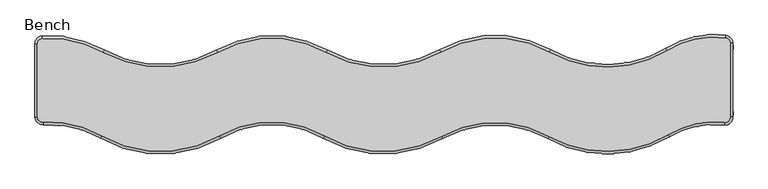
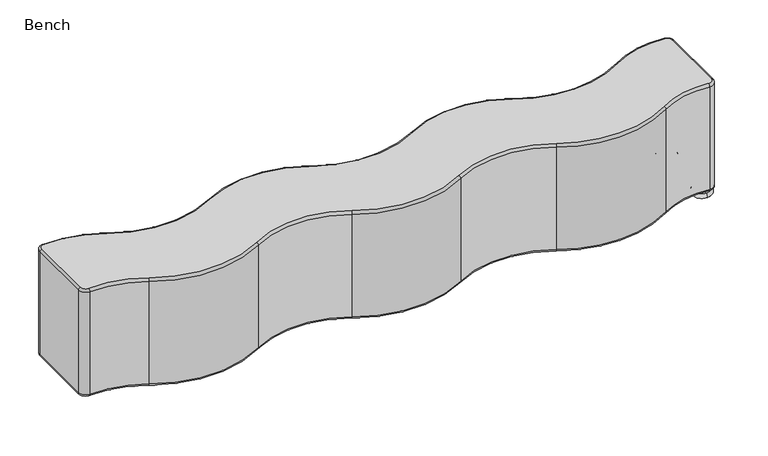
"""IFC4 building model written with IfcOpenShell, lengths in millimetres: furniture geometry, Steelcase Coalesse - Ripple - Seating - Upholstered Flat Bench : Bench."""

from ifc_helpers import new_model, si_unit, point, frame, origin, place, context, project, spatial, polyline, circle_curve, ellipse_curve, trimmed, source, transform, mapped, element, save
from ifc_brep_helpers import plane_surface, cylinder_surface, revolved_surface, advanced_brep


def bench_4ffe46dd(model_context):
    return source(origin(), model_context, "Body", "AdvancedBrep", [
        advanced_brep(
        [(736.6952251, -609.2203933, 460.7521088), (337.8246235, -609.1809598, 460.7521088), (124.6662938, -560.18304, 460.7521088), (107.0639899, -578.833943, 460.7521088), (107.0639899, -834.9683341, 460.7521088), (126.775642, -853.6220822, 460.7521088), (331.3873618, -901.9219418, 460.7521088), (743.128145, -901.9630939, 460.7521088), (1111.2884846, -901.9630939, 460.7521088), (1520.1968845, -903.5243151, 460.7521088), (1895.8402947, -903.5243151, 460.7521088), (2312.1873147, -897.6153275, 460.7521088), (2509.2391463, -854.6506444, 460.7521088), (2529.9712851, -836.0813227, 460.7521088), (2529.9712851, -577.0570264, 460.7521088), (2513.5297066, -558.5097322, 460.7521088), (2310.427035, -602.1785447, 460.7521088), (1897.4133119, -608.0375633, 460.7521088), (1518.6266727, -608.0375633, 460.7521088), (1117.7242098, -609.2203933, 460.7521088), (338.1222981, -608.6484328, 26.3783045), (736.3976557, -608.6878074, 26.3783045), (1118.0217791, -608.6878074, 26.3783045), (1518.3259658, -607.5067425, 26.3783045), (1897.7140188, -607.5067425, 26.3783045), (2310.1113917, -601.6564675, 26.3783045), (2513.6028736, -557.9040575, 26.3783045), (2530.5813632, -577.0570264, 26.3783045), (2530.5813632, -836.0813227, 26.3783045), (2509.1722021, -855.2570385, 26.3783045), (2312.5006153, -898.138814, 26.3783045), (1895.5419765, -904.0564819, 26.3783045), (1520.4952028, -904.0564819, 26.3783045), (1110.9861115, -902.4929673, 26.3783045), (743.4305181, -902.4929673, 26.3783045), (331.0848828, -902.4517547, 26.3783045), (126.8092616, -854.2312332, 26.3783045), (106.4539118, -834.9683341, 26.3783045), (106.4539118, -578.833943, 26.3783045), (124.6310311, -559.5739818, 26.3783045), (342.2450959, -601.2729262, 34.8278937), (732.2763163, -601.3114858, 34.8278937), (342.2450959, -601.2729262, 451.6924415), (732.2763163, -601.3114858, 451.6924415), (124.1426426, -551.1385189, 34.8278937), (124.1426426, -551.1385189, 451.6924415), (98.0043225, -578.833943, 34.8278937), (98.0043225, -578.833943, 451.6924415), (98.0043225, -834.9683341, 34.8278937), (98.0043225, -834.9683341, 451.6924415), (127.2748927, -862.6679829, 34.8278937), (127.2748927, -862.6679829, 451.6924415), (326.8955446, -909.7896701, 34.8278937), (326.8955446, -909.7896701, 451.6924415), (747.6183895, -909.83172, 34.8278937), (747.6183895, -909.83172, 451.6924415), (1106.7982401, -909.83172, 34.8278937), (1106.7982401, -909.83172, 451.6924415), (1524.6269138, -911.426999, 34.8278937), (1524.6269138, -911.426999, 451.6924415), (1891.4102654, -911.426999, 34.8278937), (1891.4102654, -911.426999, 451.6924415), (2316.8398316, -905.3891078, 34.8278937), (2316.8398316, -905.3891078, 451.6924415), (2508.2450234, -863.6556037, 34.8278937), (2508.2450234, -863.6556037, 451.6924415), (2539.0309524, -836.0813227, 34.8278937), (2539.0309524, -836.0813227, 451.6924415), (2539.0309524, -577.0570264, 34.8278937), (2539.0309524, -577.0570264, 451.6924415), (2514.616237, -549.5154549, 34.8278937), (2514.616237, -549.5154549, 451.6924415), (2305.7397283, -594.4256918, 34.8278937), (2305.7397283, -594.4256918, 451.6924415), (1901.8788125, -600.1548685, 34.8278937), (1901.8788125, -600.1548685, 451.6924415), (1514.1611721, -600.1548685, 34.8278937), (1514.1611721, -600.1548685, 451.6924415), (1122.1431185, -601.3114858, 34.8278937), (1122.1431185, -601.3114858, 451.6924415)],
        [
            (0, 1, circle_curve(frame((537.2952048, -252.336739, 460.7521088), z_axis=(0.0, 0.0, -1.0), x_axis=(0.4877561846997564, -0.8729798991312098, 0.0)), 408.8108496)),
            (1, 2, circle_curve(frame((147.2427143, -950.1237314, 460.7521088), z_axis=(0.0, 0.0, 1.0), x_axis=(0.4879287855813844, 0.8728834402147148, 0.0)), 390.5936989)),
            (2, 3, circle_curve(frame((125.7461263, -578.833943, 460.7521088), z_axis=(0.0, 0.0, 1.0), x_axis=(-0.05780026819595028, 0.9983281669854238, 0.0)), 18.6821364)),
            (3, 4),
            (4, 5, circle_curve(frame((125.7461263, -834.9683341, 460.7521088), z_axis=(0.0, 0.0, 1.0), x_axis=(-1.0, 0.0, 0.0)), 18.6821364)),
            (5, 6, circle_curve(frame((147.2427143, -1224.4640154, 460.7521088), z_axis=(0.0, 0.0, -1.0), x_axis=(-0.055106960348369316, 0.998480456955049, 0.0)), 371.4063011)),
            (6, 7, circle_curve(frame((537.2938022, -541.2625843, 460.7521088), z_axis=(0.0, 0.0, 1.0), x_axis=(-0.4958037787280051, -0.8684345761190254, 0.0)), 415.2982474)),
            (7, 8, circle_curve(frame((927.2083148, -1224.5419704, 460.7521088), z_axis=(0.0, 0.0, -1.0), x_axis=(-0.49563017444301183, 0.868533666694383, 0.0)), 371.4063011)),
            (8, 9, circle_curve(frame((1317.1228274, -541.2625843, 460.7521088), z_axis=(0.0, 0.0, 1.0), x_axis=(-0.4956301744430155, -0.8685336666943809, 0.0)), 415.2982474)),
            (9, 10, circle_curve(frame((1708.0185896, -1238.5775313, 460.7521088), z_axis=(0.0, 0.0, -1.0), x_axis=(-0.48898366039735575, 0.8722929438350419, 0.0)), 384.1063011)),
            (10, 11, circle_curve(frame((2098.9143519, -541.2625843, 460.7521088), z_axis=(0.0, 0.0, 1.0), x_axis=(-0.48898366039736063, -0.872292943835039, 0.0)), 415.2982474)),
            (11, 12, circle_curve(frame((2474.5470553, -1168.8983732, 460.7521088), z_axis=(0.0, 0.0, -1.0), x_axis=(-0.5135416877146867, 0.858064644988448, 0.0)), 316.1568855)),
            (12, 13, circle_curve(frame((2511.2891487, -836.0813227, 460.7521088), z_axis=(0.0, 0.0, 1.0), x_axis=(-0.10973061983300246, -0.993961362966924, 0.0)), 18.6821364)),
            (13, 14),
            (14, 15, circle_curve(frame((2511.2891487, -577.0570264, 460.7521088), z_axis=(0.0, 0.0, 1.0), x_axis=(1.0, 0.0, 0.0)), 18.6821364)),
            (15, 16, circle_curve(frame((2475.3095033, -874.8958216, 460.7521088), z_axis=(0.0, 0.0, 1.0), x_axis=(0.11993049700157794, 0.9927822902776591, 0.0)), 318.6862744)),
            (16, 17, circle_curve(frame((2098.9157545, -252.336739, 460.7521088), z_axis=(0.0, 0.0, -1.0), x_axis=(0.5173817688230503, -0.8557546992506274, 0.0)), 408.8108496)),
            (17, 18, circle_curve(frame((1708.0199923, -942.3628399, 460.7521088), z_axis=(0.0, 0.0, 1.0), x_axis=(0.4928989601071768, 0.8700865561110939, 0.0)), 384.2436989)),
            (18, 19, circle_curve(frame((1317.12423, -252.336739, 460.7521088), z_axis=(0.0, 0.0, -1.0), x_axis=(0.4928989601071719, -0.8700865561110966, 0.0)), 408.8108496)),
            (19, 0, circle_curve(frame((927.2097174, -950.2008411, 460.7521088), z_axis=(0.0, 0.0, 1.0), x_axis=(0.4877561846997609, 0.8729798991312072, 0.0)), 390.5936989)),
            (20, 21, circle_curve(frame((537.2952048, -252.336739, 26.3783045), z_axis=(0.0, 0.0, 1.0), x_axis=(0.4877561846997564, -0.8729798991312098, 0.0)), 408.2007715)),
            (21, 22, circle_curve(frame((927.2097174, -950.2008411, 26.3783045), z_axis=(0.0, 0.0, -1.0), x_axis=(0.4877561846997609, 0.8729798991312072, 0.0)), 391.203777)),
            (22, 23, circle_curve(frame((1317.12423, -252.336739, 26.3783045), z_axis=(0.0, 0.0, 1.0), x_axis=(0.4928989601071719, -0.8700865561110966, 0.0)), 408.2007715)),
            (23, 24, circle_curve(frame((1708.0199923, -942.3628399, 26.3783045), z_axis=(0.0, 0.0, -1.0), x_axis=(0.4928989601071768, 0.8700865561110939, 0.0)), 384.853777)),
            (24, 25, circle_curve(frame((2098.9157545, -252.336739, 26.3783045), z_axis=(0.0, 0.0, 1.0), x_axis=(0.5173817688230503, -0.8557546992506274, 0.0)), 408.2007715)),
            (25, 26, circle_curve(frame((2475.3095033, -874.8958216, 26.3783045), z_axis=(0.0, 0.0, -1.0), x_axis=(0.11993049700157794, 0.9927822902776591, 0.0)), 319.2963525)),
            (26, 27, circle_curve(frame((2511.2891487, -577.0570264, 26.3783045), z_axis=(0.0, 0.0, -1.0), x_axis=(1.0, 0.0, 0.0)), 19.2922145)),
            (27, 28),
            (28, 29, circle_curve(frame((2511.2891487, -836.0813227, 26.3783045), z_axis=(0.0, 0.0, -1.0), x_axis=(-0.10973061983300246, -0.993961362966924, 0.0)), 19.2922145)),
            (29, 30, circle_curve(frame((2474.5470553, -1168.8983732, 26.3783045), z_axis=(0.0, 0.0, 1.0), x_axis=(-0.5135416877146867, 0.858064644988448, 0.0)), 315.5468074)),
            (30, 31, circle_curve(frame((2098.9143519, -541.2625843, 26.3783045), z_axis=(0.0, 0.0, -1.0), x_axis=(-0.48898366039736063, -0.872292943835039, 0.0)), 415.9083255)),
            (31, 32, circle_curve(frame((1708.0185896, -1238.5775313, 26.3783045), z_axis=(0.0, 0.0, 1.0), x_axis=(-0.48898366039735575, 0.8722929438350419, 0.0)), 383.496223)),
            (32, 33, circle_curve(frame((1317.1228274, -541.2625843, 26.3783045), z_axis=(0.0, 0.0, -1.0), x_axis=(-0.4956301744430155, -0.8685336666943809, 0.0)), 415.9083255)),
            (33, 34, circle_curve(frame((927.2083148, -1224.5419704, 26.3783045), z_axis=(0.0, 0.0, 1.0), x_axis=(-0.49563017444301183, 0.868533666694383, 0.0)), 370.796223)),
            (34, 35, circle_curve(frame((537.2938022, -541.2625843, 26.3783045), z_axis=(0.0, 0.0, -1.0), x_axis=(-0.4958037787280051, -0.8684345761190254, 0.0)), 415.9083255)),
            (35, 36, circle_curve(frame((147.2427143, -1224.4640154, 26.3783045), z_axis=(0.0, 0.0, 1.0), x_axis=(-0.055106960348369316, 0.998480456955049, 0.0)), 370.796223)),
            (36, 37, circle_curve(frame((125.7461263, -834.9683341, 26.3783045), z_axis=(0.0, 0.0, -1.0), x_axis=(-1.0, 0.0, 0.0)), 19.2922145)),
            (37, 38),
            (38, 39, circle_curve(frame((125.7461263, -578.833943, 26.3783045), z_axis=(0.0, 0.0, -1.0), x_axis=(-0.05780026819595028, 0.9983281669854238, 0.0)), 19.2922145)),
            (39, 20, circle_curve(frame((147.2427143, -950.1237314, 26.3783045), z_axis=(0.0, 0.0, -1.0), x_axis=(0.4879287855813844, 0.8728834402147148, 0.0)), 391.203777)),
            (40, 41, circle_curve(frame((537.2952048, -252.336739, 34.8278937), z_axis=(0.0, 0.0, 1.0), x_axis=(0.4877561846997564, -0.8729798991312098, 0.0)), 399.7511823)),
            (41, 21, circle_curve(frame((736.3976557, -608.6878074, 34.8278937), z_axis=(-0.8729798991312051, -0.4877561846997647, 0.0), x_axis=(0.4877561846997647, -0.8729798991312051, 0.0)), 8.4495892)),
            (20, 40, circle_curve(frame((338.1222981, -608.6484328, 34.8278937), z_axis=(0.8728834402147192, -0.4879287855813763, 0.0), x_axis=(-0.4879287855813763, -0.8728834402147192, 0.0)), 8.4495892)),
            (40, 42),
            (42, 43, circle_curve(frame((537.2952048, -252.336739, 451.6924415), z_axis=(0.0, 0.0, 1.0), x_axis=(0.4877561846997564, -0.8729798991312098, 0.0)), 399.7511823)),
            (43, 41),
            (42, 1, circle_curve(frame((337.8246235, -609.1809598, 451.6924415), z_axis=(0.8728834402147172, -0.4879287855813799, 0.0), x_axis=(-0.4879287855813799, -0.8728834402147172, 0.0)), 9.0596673)),
            (0, 43, circle_curve(frame((736.6952251, -609.2203933, 451.6924415), z_axis=(-0.872979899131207, -0.48775618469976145, 0.0), x_axis=(0.48775618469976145, -0.872979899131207, 0.0)), 9.0596673)),
            (39, 44, circle_curve(frame((124.6310311, -559.5739818, 34.8278937), z_axis=(0.9983281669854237, 0.05780026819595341, 0.0), x_axis=(0.05780026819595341, -0.9983281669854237, 0.0)), 8.4495892)),
            (44, 40, circle_curve(frame((147.2427143, -950.1237314, 34.8278937), z_axis=(0.0, 0.0, -1.0), x_axis=(0.4879287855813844, 0.8728834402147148, 0.0)), 399.6533662)),
            (44, 45),
            (45, 42, circle_curve(frame((147.2427143, -950.1237314, 451.6924415), z_axis=(0.0, 0.0, -1.0), x_axis=(0.4879287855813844, 0.8728834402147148, 0.0)), 399.6533662)),
            (45, 2, circle_curve(frame((124.6662938, -560.18304, 451.6924415), z_axis=(0.9983281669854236, 0.05780026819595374, 0.0), x_axis=(0.05780026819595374, -0.9983281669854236, 0.0)), 9.0596673)),
            (38, 46, circle_curve(frame((106.4539118, -578.833943, 34.8278937), z_axis=(0.0, 1.0, 0.0), x_axis=(1.0, 0.0, 0.0)), 8.4495892)),
            (46, 44, circle_curve(frame((125.7461263, -578.833943, 34.8278937), z_axis=(0.0, 0.0, -1.0), x_axis=(-0.05780026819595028, 0.9983281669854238, 0.0)), 27.7418037)),
            (46, 47),
            (47, 45, circle_curve(frame((125.7461263, -578.833943, 451.6924415), z_axis=(0.0, 0.0, -1.0), x_axis=(-0.05780026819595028, 0.9983281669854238, 0.0)), 27.7418037)),
            (47, 3, circle_curve(frame((107.0639899, -578.833943, 451.6924415), z_axis=(0.0, 1.0, 0.0), x_axis=(1.0, 0.0, 0.0)), 9.0596673)),
            (37, 48, circle_curve(frame((106.4539118, -834.9683341, 34.8278937), z_axis=(0.0, 1.0, 0.0), x_axis=(1.0, 0.0, 0.0)), 8.4495892)),
            (48, 46),
            (48, 49),
            (49, 47),
            (49, 4, circle_curve(frame((107.0639899, -834.9683341, 451.6924415), z_axis=(0.0, 1.0, 0.0), x_axis=(1.0, 0.0, 0.0)), 9.0596673)),
            (36, 50, circle_curve(frame((126.8092616, -854.2312332, 34.8278937), z_axis=(-0.9984804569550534, -0.05510696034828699, 0.0), x_axis=(-0.05510696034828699, 0.9984804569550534, 0.0)), 8.4495892)),
            (50, 48, circle_curve(frame((125.7461263, -834.9683341, 34.8278937), z_axis=(0.0, 0.0, -1.0), x_axis=(-1.0, 0.0, 0.0)), 27.7418037)),
            (50, 51),
            (51, 49, circle_curve(frame((125.7461263, -834.9683341, 451.6924415), z_axis=(0.0, 0.0, -1.0), x_axis=(-1.0, 0.0, 0.0)), 27.7418037)),
            (51, 5, circle_curve(frame((126.775642, -853.6220822, 451.6924415), z_axis=(-0.9984804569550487, -0.055106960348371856, 0.0), x_axis=(-0.055106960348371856, 0.9984804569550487, 0.0)), 9.0596673)),
            (35, 52, circle_curve(frame((331.0848828, -902.4517547, 34.8278937), z_axis=(-0.8684345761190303, 0.4958037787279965, 0.0), x_axis=(0.4958037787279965, 0.8684345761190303, 0.0)), 8.4495892)),
            (52, 50, circle_curve(frame((147.2427143, -1224.4640154, 34.8278937), z_axis=(0.0, 0.0, 1.0), x_axis=(-0.055106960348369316, 0.998480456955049, 0.0)), 362.3466338)),
            (52, 53),
            (53, 51, circle_curve(frame((147.2427143, -1224.4640154, 451.6924415), z_axis=(0.0, 0.0, 1.0), x_axis=(-0.055106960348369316, 0.998480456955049, 0.0)), 362.3466338)),
            (53, 6, circle_curve(frame((331.3873618, -901.9219418, 451.6924415), z_axis=(-0.8684345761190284, 0.49580377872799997, 0.0), x_axis=(0.49580377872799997, 0.8684345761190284, 0.0)), 9.0596673)),
            (34, 54, circle_curve(frame((743.4305181, -902.4929673, 34.8278937), z_axis=(-0.8685336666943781, -0.49563017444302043, 0.0), x_axis=(-0.49563017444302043, 0.8685336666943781, 0.0)), 8.4495892)),
            (54, 52, circle_curve(frame((537.2938022, -541.2625843, 34.8278937), z_axis=(0.0, 0.0, -1.0), x_axis=(-0.4958037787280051, -0.8684345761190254, 0.0)), 424.3579147)),
            (54, 55),
            (55, 53, circle_curve(frame((537.2938022, -541.2625843, 451.6924415), z_axis=(0.0, 0.0, -1.0), x_axis=(-0.4958037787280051, -0.8684345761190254, 0.0)), 424.3579147)),
            (55, 7, circle_curve(frame((743.128145, -901.9630939, 451.6924415), z_axis=(-0.86853366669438, -0.4956301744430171, 0.0), x_axis=(-0.4956301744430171, 0.86853366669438, 0.0)), 9.0596673)),
            (33, 56, circle_curve(frame((1110.9861115, -902.4929673, 34.8278937), z_axis=(-0.8685336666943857, 0.4956301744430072, 0.0), x_axis=(0.4956301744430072, 0.8685336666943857, 0.0)), 8.4495892)),
            (56, 54, circle_curve(frame((927.2083148, -1224.5419704, 34.8278937), z_axis=(0.0, 0.0, 1.0), x_axis=(-0.49563017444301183, 0.868533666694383, 0.0)), 362.3466338)),
            (56, 57),
            (57, 55, circle_curve(frame((927.2083148, -1224.5419704, 451.6924415), z_axis=(0.0, 0.0, 1.0), x_axis=(-0.49563017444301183, 0.868533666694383, 0.0)), 362.3466338)),
            (57, 8, circle_curve(frame((1111.2884846, -901.9630939, 451.6924415), z_axis=(-0.8685336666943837, 0.4956301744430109, 0.0), x_axis=(0.4956301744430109, 0.8685336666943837, 0.0)), 9.0596673)),
            (32, 58, circle_curve(frame((1520.4952028, -904.0564819, 34.8278937), z_axis=(-0.8722929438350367, -0.48898366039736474, 0.0), x_axis=(-0.4889836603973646, 0.8722929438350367, 0.0)), 8.4495892)),
            (58, 56, circle_curve(frame((1317.1228274, -541.2625843, 34.8278937), z_axis=(0.0, 0.0, -1.0), x_axis=(-0.4956301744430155, -0.8685336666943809, 0.0)), 424.3579147)),
            (58, 59),
            (59, 57, circle_curve(frame((1317.1228274, -541.2625843, 451.6924415), z_axis=(0.0, 0.0, -1.0), x_axis=(-0.4956301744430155, -0.8685336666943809, 0.0)), 424.3579147)),
            (59, 9, circle_curve(frame((1520.1968845, -903.5243151, 451.6924415), z_axis=(-0.8722929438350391, -0.48898366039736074, 0.0), x_axis=(-0.4889836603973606, 0.8722929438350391, 0.0)), 9.0596673)),
            (31, 60, circle_curve(frame((1895.5419765, -904.0564819, 34.8278937), z_axis=(-0.8722929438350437, 0.48898366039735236, 0.0), x_axis=(0.48898366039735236, 0.8722929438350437, 0.0)), 8.4495892)),
            (60, 58, circle_curve(frame((1708.0185896, -1238.5775313, 34.8278937), z_axis=(0.0, 0.0, 1.0), x_axis=(-0.48898366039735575, 0.8722929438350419, 0.0)), 375.0466338)),
            (60, 61),
            (61, 59, circle_curve(frame((1708.0185896, -1238.5775313, 451.6924415), z_axis=(0.0, 0.0, 1.0), x_axis=(-0.48898366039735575, 0.8722929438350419, 0.0)), 375.0466338)),
            (61, 10, circle_curve(frame((1895.8402947, -903.5243151, 451.6924415), z_axis=(-0.8722929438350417, 0.48898366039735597, 0.0), x_axis=(0.48898366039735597, 0.8722929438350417, 0.0)), 9.0596673)),
            (30, 62, circle_curve(frame((2312.5006153, -898.138814, 34.8278937), z_axis=(-0.8580646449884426, -0.5135416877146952, 0.0), x_axis=(-0.5135416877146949, 0.8580646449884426, 0.0)), 8.4495892)),
            (62, 60, circle_curve(frame((2098.9143519, -541.2625843, 34.8278937), z_axis=(0.0, 0.0, -1.0), x_axis=(-0.48898366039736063, -0.872292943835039, 0.0)), 424.3579147)),
            (62, 63),
            (63, 61, circle_curve(frame((2098.9143519, -541.2625843, 451.6924415), z_axis=(0.0, 0.0, -1.0), x_axis=(-0.48898366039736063, -0.872292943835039, 0.0)), 424.3579147)),
            (63, 11, circle_curve(frame((2312.1873147, -897.6153275, 451.6924415), z_axis=(-0.8580646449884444, -0.5135416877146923, 0.0), x_axis=(-0.5135416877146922, 0.8580646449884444, 0.0)), 9.0596673)),
            (29, 64, circle_curve(frame((2509.1722021, -855.2570385, 34.8278937), z_axis=(-0.9939613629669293, 0.10973061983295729, 0.0), x_axis=(0.10973061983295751, 0.9939613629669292, 0.0)), 8.4495892)),
            (64, 62, circle_curve(frame((2474.5470553, -1168.8983732, 34.8278937), z_axis=(0.0, 0.0, 1.0), x_axis=(-0.5135416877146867, 0.858064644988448, 0.0)), 307.0972182)),
            (64, 65),
            (65, 63, circle_curve(frame((2474.5470553, -1168.8983732, 451.6924415), z_axis=(0.0, 0.0, 1.0), x_axis=(-0.5135416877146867, 0.858064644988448, 0.0)), 307.0972182)),
            (65, 12, circle_curve(frame((2509.2391463, -854.6506444, 451.6924415), z_axis=(-0.9939613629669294, 0.10973061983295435, 0.0), x_axis=(0.10973061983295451, 0.9939613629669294, 0.0)), 9.0596673)),
            (28, 66, circle_curve(frame((2530.5813632, -836.0813227, 34.8278937), z_axis=(0.0, -1.0, 0.0), x_axis=(-1.0, 0.0, 0.0)), 8.4495892)),
            (66, 64, circle_curve(frame((2511.2891487, -836.0813227, 34.8278937), z_axis=(0.0, 0.0, -1.0), x_axis=(-0.10973061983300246, -0.993961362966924, 0.0)), 27.7418037)),
            (66, 67),
            (67, 65, circle_curve(frame((2511.2891487, -836.0813227, 451.6924415), z_axis=(0.0, 0.0, -1.0), x_axis=(-0.10973061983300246, -0.993961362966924, 0.0)), 27.7418037)),
            (67, 13, circle_curve(frame((2529.9712851, -836.0813227, 451.6924415), z_axis=(0.0, -1.0, 0.0), x_axis=(-1.0, 0.0, 0.0)), 9.0596673)),
            (27, 68, circle_curve(frame((2530.5813632, -577.0570264, 34.8278937), z_axis=(0.0, -1.0, 0.0), x_axis=(-1.0, 0.0, 0.0)), 8.4495892)),
            (68, 66),
            (68, 69),
            (69, 67),
            (69, 14, circle_curve(frame((2529.9712851, -577.0570264, 451.6924415), z_axis=(0.0, -1.0, 0.0), x_axis=(-1.0, 0.0, 0.0)), 9.0596673)),
            (26, 70, circle_curve(frame((2513.6028736, -557.9040575, 34.8278937), z_axis=(0.9927822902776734, -0.1199304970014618, 0.0), x_axis=(-0.1199304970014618, -0.9927822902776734, 0.0)), 8.4495892)),
            (70, 68, circle_curve(frame((2511.2891487, -577.0570264, 34.8278937), z_axis=(0.0, 0.0, -1.0), x_axis=(1.0, 0.0, 0.0)), 27.7418037)),
            (70, 71),
            (71, 69, circle_curve(frame((2511.2891487, -577.0570264, 451.6924415), z_axis=(0.0, 0.0, -1.0), x_axis=(1.0, 0.0, 0.0)), 27.7418037)),
            (71, 15, circle_curve(frame((2513.5297066, -558.5097322, 451.6924415), z_axis=(0.9927822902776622, -0.11993049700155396, 0.0), x_axis=(-0.11993049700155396, -0.9927822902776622, 0.0)), 9.0596673)),
            (25, 72, circle_curve(frame((2310.1113917, -601.6564675, 34.8278937), z_axis=(0.8557546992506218, 0.5173817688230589, 0.0), x_axis=(0.5173817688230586, -0.855754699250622, 0.0)), 8.4495892)),
            (72, 70, circle_curve(frame((2475.3095033, -874.8958216, 34.8278937), z_axis=(0.0, 0.0, -1.0), x_axis=(0.11993049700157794, 0.9927822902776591, 0.0)), 327.7459417)),
            (72, 73),
            (73, 71, circle_curve(frame((2475.3095033, -874.8958216, 451.6924415), z_axis=(0.0, 0.0, -1.0), x_axis=(0.11993049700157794, 0.9927822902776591, 0.0)), 327.7459417)),
            (73, 16, circle_curve(frame((2310.427035, -602.1785447, 451.6924415), z_axis=(0.8557546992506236, 0.5173817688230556, 0.0), x_axis=(0.5173817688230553, -0.8557546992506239, 0.0)), 9.0596673)),
            (24, 74, circle_curve(frame((1897.7140188, -607.5067425, 34.8278937), z_axis=(0.8700865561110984, -0.4928989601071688, 0.0), x_axis=(-0.4928989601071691, -0.8700865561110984, 0.0)), 8.4495892)),
            (74, 72, circle_curve(frame((2098.9157545, -252.336739, 34.8278937), z_axis=(0.0, 0.0, 1.0), x_axis=(0.5173817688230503, -0.8557546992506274, 0.0)), 399.7511823)),
            (74, 75),
            (75, 73, circle_curve(frame((2098.9157545, -252.336739, 451.6924415), z_axis=(0.0, 0.0, 1.0), x_axis=(0.5173817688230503, -0.8557546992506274, 0.0)), 399.7511823)),
            (75, 17, circle_curve(frame((1897.4133119, -608.0375633, 451.6924415), z_axis=(0.8700865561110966, -0.492898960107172, 0.0), x_axis=(-0.49289896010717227, -0.8700865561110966, 0.0)), 9.0596673)),
            (23, 76, circle_curve(frame((1518.3259658, -607.5067425, 34.8278937), z_axis=(0.8700865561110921, 0.49289896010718, 0.0), x_axis=(0.49289896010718, -0.8700865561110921, 0.0)), 8.4495892)),
            (76, 74, circle_curve(frame((1708.0199923, -942.3628399, 34.8278937), z_axis=(0.0, 0.0, -1.0), x_axis=(0.4928989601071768, 0.8700865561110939, 0.0)), 393.3033662)),
            (76, 77),
            (77, 75, circle_curve(frame((1708.0199923, -942.3628399, 451.6924415), z_axis=(0.0, 0.0, -1.0), x_axis=(0.4928989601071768, 0.8700865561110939, 0.0)), 393.3033662)),
            (77, 18, circle_curve(frame((1518.6266727, -608.0375633, 451.6924415), z_axis=(0.8700865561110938, 0.49289896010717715, 0.0), x_axis=(0.49289896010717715, -0.8700865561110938, 0.0)), 9.0596673)),
            (22, 78, circle_curve(frame((1118.0217791, -608.6878074, 34.8278937), z_axis=(0.8729798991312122, -0.48775618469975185, 0.0), x_axis=(-0.48775618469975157, -0.8729798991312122, 0.0)), 8.4495892)),
            (78, 76, circle_curve(frame((1317.12423, -252.336739, 34.8278937), z_axis=(0.0, 0.0, 1.0), x_axis=(0.4928989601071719, -0.8700865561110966, 0.0)), 399.7511823)),
            (78, 79),
            (79, 77, circle_curve(frame((1317.12423, -252.336739, 451.6924415), z_axis=(0.0, 0.0, 1.0), x_axis=(0.4928989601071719, -0.8700865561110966, 0.0)), 399.7511823)),
            (79, 19, circle_curve(frame((1117.7242098, -609.2203933, 451.6924415), z_axis=(0.8729798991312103, -0.48775618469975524, 0.0), x_axis=(-0.48775618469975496, -0.8729798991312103, 0.0)), 9.0596673)),
            (41, 78, circle_curve(frame((927.2097174, -950.2008411, 34.8278937), z_axis=(0.0, 0.0, -1.0), x_axis=(0.4877561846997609, 0.8729798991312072, 0.0)), 399.6533662)),
            (43, 79, circle_curve(frame((927.2097174, -950.2008411, 451.6924415), z_axis=(0.0, 0.0, -1.0), x_axis=(0.4877561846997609, 0.8729798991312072, 0.0)), 399.6533662)),
        ],
        [
            plane_surface(frame((744.568652, -623.3121539, 460.7521088), z_axis=(0.0, 0.0, 1.0), x_axis=(-0.8729798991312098, -0.4877561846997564, 0.0))),
            plane_surface(frame((744.568652, -623.3121539, 26.3783045), z_axis=(0.0, 0.0, -1.0), x_axis=(0.8729798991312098, 0.4877561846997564, 0.0))),
            revolved_surface(trimmed(ellipse_curve(frame((736.3976557, -608.6878074, 34.8278937), z_axis=(0.8729798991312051, 0.4877561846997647, 0.0), x_axis=(0.4877561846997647, -0.8729798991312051, 0.0)), 8.4495892, 8.4495892), [point((736.3976557, -608.6878074, 26.3783045))], [point((732.2763163, -601.3114858, 34.8278937))], True, "CARTESIAN"), (537.2952048, -252.336739, 473.9285431), (0.0, 0.0, -1.0)),
            revolved_surface(polyline([(732.2763163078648, -601.3114858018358, 34.827893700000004), (732.2763163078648, -601.3114858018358, 451.6924415)]), (537.2952048, -252.336739, 473.9285431), (0.0, 0.0, -1.0)),
            revolved_surface(trimmed(ellipse_curve(frame((736.6952251, -609.2203933, 451.6924415), z_axis=(0.872979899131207, 0.48775618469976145, 0.0), x_axis=(0.48775618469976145, -0.872979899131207, 0.0)), 9.0596673, 9.0596673), [point((732.2763163, -601.3114858, 451.6924415))], [point((736.6952251, -609.2203933, 460.7521088))], True, "CARTESIAN"), (537.2952048, -252.336739, 473.9285431), (0.0, 0.0, -1.0)),
            revolved_surface(trimmed(ellipse_curve(frame((338.1222981, -608.6484328, 34.8278937), z_axis=(0.8728834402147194, -0.487928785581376, 0.0), x_axis=(-0.487928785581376, -0.8728834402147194, 0.0)), 8.4495892, 8.4495892), [point((338.1222981, -608.6484328, 26.3783045))], [point((342.2450959, -601.2729262, 34.8278937))], True, "CARTESIAN"), (147.2427143, -950.1237314, 473.9285431), (0.0, 0.0, 1.0)),
            cylinder_surface(frame((147.2427143, -950.1237314, 473.9285431), z_axis=(0.0, 0.0, 1.0), x_axis=(0.4879287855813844, 0.8728834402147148, 0.0)), 399.6533662),
            revolved_surface(trimmed(ellipse_curve(frame((337.8246235, -609.1809598, 451.6924415), z_axis=(0.8728834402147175, -0.4879287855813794, 0.0), x_axis=(-0.4879287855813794, -0.8728834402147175, 0.0)), 9.0596673, 9.0596673), [point((342.2450959, -601.2729262, 451.6924415))], [point((337.8246235, -609.1809598, 460.7521088))], True, "CARTESIAN"), (147.2427143, -950.1237314, 473.9285431), (0.0, 0.0, 1.0)),
            revolved_surface(trimmed(ellipse_curve(frame((124.6310311, -559.5739818, 34.8278937), z_axis=(0.9983281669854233, 0.05780026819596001, 0.0), x_axis=(0.05780026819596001, -0.9983281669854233, 0.0)), 8.4495892, 8.4495892), [point((124.6310311, -559.5739818, 26.3783045))], [point((124.1426426, -551.1385189, 34.8278937))], True, "CARTESIAN"), (125.7461263, -578.833943, 473.9285431), (0.0, 0.0, 1.0)),
            cylinder_surface(frame((125.7461263, -578.833943, 473.9285431), z_axis=(0.0, 0.0, 1.0), x_axis=(-0.05780026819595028, 0.9983281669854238, 0.0)), 27.7418037),
            revolved_surface(trimmed(ellipse_curve(frame((124.6662938, -560.18304, 451.6924415), z_axis=(0.9983281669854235, 0.057800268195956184, 0.0), x_axis=(0.057800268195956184, -0.9983281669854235, 0.0)), 9.0596673, 9.0596673), [point((124.1426426, -551.1385189, 451.6924415))], [point((124.6662938, -560.18304, 460.7521088))], True, "CARTESIAN"), (125.7461263, -578.833943, 473.9285431), (0.0, 0.0, 1.0)),
            cylinder_surface(frame((106.4539118, -578.833943, 34.8278937), z_axis=(0.0, 1.0, 0.0), x_axis=(1.0, 0.0, 0.0)), 8.4495892),
            plane_surface(frame((98.0043225, -578.833943, 34.8278937), z_axis=(-1.0, 0.0, 0.0), x_axis=(0.0, -1.0, 0.0))),
            cylinder_surface(frame((107.0639899, -578.833943, 451.6924415), z_axis=(0.0, 1.0, 0.0), x_axis=(1.0, 0.0, 0.0)), 9.0596673),
            revolved_surface(trimmed(ellipse_curve(frame((106.4539118, -834.9683341, 34.8278937), z_axis=(0.0, 1.0, 0.0), x_axis=(1.0, 0.0, 0.0)), 8.4495892, 8.4495892), [point((106.4539118, -834.9683341, 26.3783045))], [point((98.0043225, -834.9683341, 34.8278937))], True, "CARTESIAN"), (125.7461263, -834.9683341, 473.9285431), (0.0, 0.0, 1.0)),
            cylinder_surface(frame((125.7461263, -834.9683341, 473.9285431), z_axis=(0.0, 0.0, 1.0), x_axis=(-1.0, 0.0, 0.0)), 27.7418037),
            revolved_surface(trimmed(ellipse_curve(frame((107.0639899, -834.9683341, 451.6924415), z_axis=(0.0, 1.0, 0.0), x_axis=(1.0, 0.0, 0.0)), 9.0596673, 9.0596673), [point((98.0043225, -834.9683341, 451.6924415))], [point((107.0639899, -834.9683341, 460.7521088))], True, "CARTESIAN"), (125.7461263, -834.9683341, 473.9285431), (0.0, 0.0, 1.0)),
            revolved_surface(trimmed(ellipse_curve(frame((126.8092616, -854.2312332, 34.8278937), z_axis=(-0.9984804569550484, -0.05510696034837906, 0.0), x_axis=(-0.05510696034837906, 0.9984804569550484, 0.0)), 8.4495892, 8.4495892), [point((126.8092616, -854.2312332, 26.3783045))], [point((127.2748927, -862.6679829, 34.8278937))], True, "CARTESIAN"), (147.2427143, -1224.4640154, 473.9285431), (0.0, 0.0, -1.0)),
            revolved_surface(polyline([(127.2748927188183, -862.6679829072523, 34.827893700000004), (127.2748927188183, -862.6679829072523, 451.6924415)]), (147.2427143, -1224.4640154, 473.9285431), (0.0, 0.0, -1.0)),
            revolved_surface(trimmed(ellipse_curve(frame((126.775642, -853.6220822, 451.6924415), z_axis=(-0.9984804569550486, -0.055106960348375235, 0.0), x_axis=(-0.055106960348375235, 0.9984804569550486, 0.0)), 9.0596673, 9.0596673), [point((127.2748927, -862.6679829, 451.6924415))], [point((126.775642, -853.6220822, 460.7521088))], True, "CARTESIAN"), (147.2427143, -1224.4640154, 473.9285431), (0.0, 0.0, -1.0)),
            revolved_surface(trimmed(ellipse_curve(frame((331.0848828, -902.4517547, 34.8278937), z_axis=(-0.8684345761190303, 0.49580377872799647, 0.0), x_axis=(0.49580377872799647, 0.8684345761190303, 0.0)), 8.4495892, 8.4495892), [point((331.0848828, -902.4517547, 26.3783045))], [point((326.8955446, -909.7896701, 34.8278937))], True, "CARTESIAN"), (537.2938022, -541.2625843, 473.9285431), (0.0, 0.0, 1.0)),
            cylinder_surface(frame((537.2938022, -541.2625843, 473.9285431), z_axis=(0.0, 0.0, 1.0), x_axis=(-0.4958037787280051, -0.8684345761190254, 0.0)), 424.3579147),
            revolved_surface(trimmed(ellipse_curve(frame((331.3873618, -901.9219418, 451.6924415), z_axis=(-0.8684345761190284, 0.4958037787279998, 0.0), x_axis=(0.4958037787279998, 0.8684345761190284, 0.0)), 9.0596673, 9.0596673), [point((326.8955446, -909.7896701, 451.6924415))], [point((331.3873618, -901.9219418, 460.7521088))], True, "CARTESIAN"), (537.2938022, -541.2625843, 473.9285431), (0.0, 0.0, 1.0)),
            revolved_surface(trimmed(ellipse_curve(frame((743.4305181, -902.4929673, 34.8278937), z_axis=(-0.8685336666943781, -0.49563017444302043, 0.0), x_axis=(-0.49563017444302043, 0.8685336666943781, 0.0)), 8.4495892, 8.4495892), [point((743.4305181, -902.4929673, 26.3783045))], [point((747.6183895, -909.83172, 34.8278937))], True, "CARTESIAN"), (927.2083148, -1224.5419704, 473.9285431), (0.0, 0.0, -1.0)),
            revolved_surface(polyline([(747.6183894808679, -909.8317199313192, 34.827893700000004), (747.6183894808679, -909.8317199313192, 451.6924415)]), (927.2083148, -1224.5419704, 473.9285431), (0.0, 0.0, -1.0)),
            revolved_surface(trimmed(ellipse_curve(frame((743.128145, -901.9630939, 451.6924415), z_axis=(-0.86853366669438, -0.495630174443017, 0.0), x_axis=(-0.495630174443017, 0.86853366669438, 0.0)), 9.0596673, 9.0596673), [point((747.6183895, -909.83172, 451.6924415))], [point((743.128145, -901.9630939, 460.7521088))], True, "CARTESIAN"), (927.2083148, -1224.5419704, 473.9285431), (0.0, 0.0, -1.0)),
            revolved_surface(trimmed(ellipse_curve(frame((1110.9861115, -902.4929673, 34.8278937), z_axis=(-0.8685336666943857, 0.4956301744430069, 0.0), x_axis=(0.49563017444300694, 0.8685336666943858, 0.0)), 8.4495892, 8.4495892), [point((1110.9861115, -902.4929673, 26.3783045))], [point((1106.7982401, -909.83172, 34.8278937))], True, "CARTESIAN"), (1317.1228274, -541.2625843, 473.9285431), (0.0, 0.0, 0.9999999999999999)),
            cylinder_surface(frame((1317.1228274, -541.2625843, 473.9285431), z_axis=(0.0, 0.0, 0.9999999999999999), x_axis=(-0.4956301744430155, -0.8685336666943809, 0.0)), 424.3579147),
            revolved_surface(trimmed(ellipse_curve(frame((1111.2884846, -901.9630939, 451.6924415), z_axis=(-0.8685336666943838, 0.4956301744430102, 0.0), x_axis=(0.4956301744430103, 0.8685336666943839, 0.0)), 9.0596673, 9.0596673), [point((1106.7982401, -909.83172, 451.6924415))], [point((1111.2884846, -901.9630939, 460.7521088))], True, "CARTESIAN"), (1317.1228274, -541.2625843, 473.9285431), (0.0, 0.0, 0.9999999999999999)),
            revolved_surface(trimmed(ellipse_curve(frame((1520.4952028, -904.0564819, 34.8278937), z_axis=(-0.8722929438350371, -0.4889836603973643, 0.0), x_axis=(-0.4889836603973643, 0.8722929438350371, 0.0)), 8.4495892, 8.4495892), [point((1520.4952028, -904.0564819, 26.3783045))], [point((1524.6269138, -911.426999, 34.8278937))], True, "CARTESIAN"), (1708.0185896, -1238.5775313, 473.9285431), (0.0, 0.0, -1.0)),
            revolved_surface(polyline([(1524.6269137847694, -911.426999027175, 34.827893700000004), (1524.6269137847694, -911.426999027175, 451.6924415)]), (1708.0185896, -1238.5775313, 473.9285431), (0.0, 0.0, -1.0)),
            revolved_surface(trimmed(ellipse_curve(frame((1520.1968845, -903.5243151, 451.6924415), z_axis=(-0.872292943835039, -0.48898366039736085, 0.0), x_axis=(-0.48898366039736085, 0.872292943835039, 0.0)), 9.0596673, 9.0596673), [point((1524.6269138, -911.426999, 451.6924415))], [point((1520.1968845, -903.5243151, 460.7521088))], True, "CARTESIAN"), (1708.0185896, -1238.5775313, 473.9285431), (0.0, 0.0, -1.0)),
            revolved_surface(trimmed(ellipse_curve(frame((1895.5419765, -904.0564819, 34.8278937), z_axis=(-0.8722929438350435, 0.48898366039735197, 0.0), x_axis=(0.4889836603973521, 0.8722929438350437, 0.0)), 8.4495892, 8.4495892), [point((1895.5419765, -904.0564819, 26.3783045))], [point((1891.4102654, -911.426999, 34.8278937))], True, "CARTESIAN"), (2098.9143519, -541.2625843, 473.9285431), (0.0, 0.0, 0.9999999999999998)),
            cylinder_surface(frame((2098.9143519, -541.2625843, 473.9285431), z_axis=(0.0, 0.0, 0.9999999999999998), x_axis=(-0.48898366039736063, -0.872292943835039, 0.0)), 424.3579147),
            revolved_surface(trimmed(ellipse_curve(frame((1895.8402947, -903.5243151, 451.6924415), z_axis=(-0.8722929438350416, 0.48898366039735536, 0.0), x_axis=(0.48898366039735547, 0.8722929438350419, 0.0)), 9.0596673, 9.0596673), [point((1891.4102654, -911.426999, 451.6924415))], [point((1895.8402947, -903.5243151, 460.7521088))], True, "CARTESIAN"), (2098.9143519, -541.2625843, 473.9285431), (0.0, 0.0, 0.9999999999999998)),
            revolved_surface(trimmed(ellipse_curve(frame((2312.5006153, -898.138814, 34.8278937), z_axis=(-0.8580646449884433, -0.5135416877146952, 0.0), x_axis=(-0.5135416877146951, 0.858064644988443, 0.0)), 8.4495892, 8.4495892), [point((2312.5006153, -898.138814, 26.3783045))], [point((2316.8398316, -905.3891078, 34.8278937))], True, "CARTESIAN"), (2474.5470553, -1168.8983732, 473.9285431), (0.0, 0.0, -1.0000000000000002)),
            revolved_surface(polyline([(2316.8398315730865, -905.3891076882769, 34.82789369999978), (2316.8398315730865, -905.3891076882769, 451.6924415)]), (2474.5470553, -1168.8983732, 473.9285431), (0.0, 0.0, -1.0000000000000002)),
            revolved_surface(trimmed(ellipse_curve(frame((2312.1873147, -897.6153275, 451.6924415), z_axis=(-0.8580646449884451, -0.513541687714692, 0.0), x_axis=(-0.5135416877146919, 0.8580646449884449, 0.0)), 9.0596673, 9.0596673), [point((2316.8398316, -905.3891078, 451.6924415))], [point((2312.1873147, -897.6153275, 460.7521088))], True, "CARTESIAN"), (2474.5470553, -1168.8983732, 473.9285431), (0.0, 0.0, -1.0000000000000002)),
            revolved_surface(trimmed(ellipse_curve(frame((2509.1722021, -855.2570385, 34.8278937), z_axis=(-0.993961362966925, 0.10973061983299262, 0.0), x_axis=(0.10973061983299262, 0.993961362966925, 0.0)), 8.4495892, 8.4495892), [point((2509.1722021, -855.2570385, 26.3783045))], [point((2508.2450234, -863.6556037, 34.8278937))], True, "CARTESIAN"), (2511.2891487, -836.0813227, 473.9285431), (0.0, 0.0, 1.0)),
            cylinder_surface(frame((2511.2891487, -836.0813227, 473.9285431), z_axis=(0.0, 0.0, 1.0), x_axis=(-0.10973061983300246, -0.993961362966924, 0.0)), 27.7418037),
            revolved_surface(trimmed(ellipse_curve(frame((2509.2391463, -854.6506444, 451.6924415), z_axis=(-0.9939613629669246, 0.1097306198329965, 0.0), x_axis=(0.1097306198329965, 0.9939613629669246, 0.0)), 9.0596673, 9.0596673), [point((2508.2450234, -863.6556037, 451.6924415))], [point((2509.2391463, -854.6506444, 460.7521088))], True, "CARTESIAN"), (2511.2891487, -836.0813227, 473.9285431), (0.0, 0.0, 1.0)),
            cylinder_surface(frame((2530.5813632, -836.0813227, 34.8278937), z_axis=(0.0, -1.0, 0.0), x_axis=(-1.0, 0.0, 0.0)), 8.4495892),
            plane_surface(frame((2539.0309524, -836.0813227, 34.8278937), z_axis=(1.0, 0.0, 0.0), x_axis=(0.0, 1.0, 0.0))),
            cylinder_surface(frame((2529.9712851, -836.0813227, 451.6924415), z_axis=(0.0, -1.0, 0.0), x_axis=(-1.0, 0.0, 0.0)), 9.0596673),
            revolved_surface(trimmed(ellipse_curve(frame((2530.5813632, -577.0570264, 34.8278937), z_axis=(0.0, -1.0, 0.0), x_axis=(-1.0, 0.0, 0.0)), 8.4495892, 8.4495892), [point((2530.5813632, -577.0570264, 26.3783045))], [point((2539.0309524, -577.0570264, 34.8278937))], True, "CARTESIAN"), (2511.2891487, -577.0570264, 473.9285431), (0.0, 0.0, 1.0)),
            cylinder_surface(frame((2511.2891487, -577.0570264, 473.9285431), z_axis=(0.0, 0.0, 1.0), x_axis=(1.0, 0.0, 0.0)), 27.7418037),
            revolved_surface(trimmed(ellipse_curve(frame((2529.9712851, -577.0570264, 451.6924415), z_axis=(0.0, -1.0, 0.0), x_axis=(-1.0, 0.0, 0.0)), 9.0596673, 9.0596673), [point((2539.0309524, -577.0570264, 451.6924415))], [point((2529.9712851, -577.0570264, 460.7521088))], True, "CARTESIAN"), (2511.2891487, -577.0570264, 473.9285431), (0.0, 0.0, 1.0)),
            revolved_surface(trimmed(ellipse_curve(frame((2513.6028736, -557.9040575, 34.8278937), z_axis=(0.99278229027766, -0.11993049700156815, 0.0), x_axis=(-0.11993049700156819, -0.9927822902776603, 0.0)), 8.4495892, 8.4495892), [point((2513.6028736, -557.9040575, 26.3783045))], [point((2514.616237, -549.5154549, 34.8278937))], True, "CARTESIAN"), (2475.3095033, -874.8958216, 473.9285431), (0.0, 0.0, 0.9999999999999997)),
            cylinder_surface(frame((2475.3095033, -874.8958216, 473.9285431), z_axis=(0.0, 0.0, 0.9999999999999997), x_axis=(0.11993049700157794, 0.9927822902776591, 0.0)), 327.7459417),
            revolved_surface(trimmed(ellipse_curve(frame((2513.5297066, -558.5097322, 451.6924415), z_axis=(0.9927822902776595, -0.1199304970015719, 0.0), x_axis=(-0.11993049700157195, -0.9927822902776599, 0.0)), 9.0596673, 9.0596673), [point((2514.616237, -549.5154549, 451.6924415))], [point((2513.5297066, -558.5097322, 460.7521088))], True, "CARTESIAN"), (2475.3095033, -874.8958216, 473.9285431), (0.0, 0.0, 0.9999999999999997)),
            revolved_surface(trimmed(ellipse_curve(frame((2310.1113917, -601.6564675, 34.8278937), z_axis=(0.8557546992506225, 0.5173817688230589, 0.0), x_axis=(0.5173817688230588, -0.8557546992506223, 0.0)), 8.4495892, 8.4495892), [point((2310.1113917, -601.6564675, 26.3783045))], [point((2305.7397283, -594.4256918, 34.8278937))], True, "CARTESIAN"), (2098.9157545, -252.336739, 473.9285431), (0.0, 0.0, -1.0000000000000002)),
            revolved_surface(polyline([(2305.7397282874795, -594.4256917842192, 34.82789369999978), (2305.7397282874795, -594.4256917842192, 451.6924415)]), (2098.9157545, -252.336739, 473.9285431), (0.0, 0.0, -1.0000000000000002)),
            revolved_surface(trimmed(ellipse_curve(frame((2310.427035, -602.1785447, 451.6924415), z_axis=(0.8557546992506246, 0.5173817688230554, 0.0), x_axis=(0.5173817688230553, -0.8557546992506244, 0.0)), 9.0596673, 9.0596673), [point((2305.7397283, -594.4256918, 451.6924415))], [point((2310.427035, -602.1785447, 460.7521088))], True, "CARTESIAN"), (2098.9157545, -252.336739, 473.9285431), (0.0, 0.0, -1.0000000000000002)),
            revolved_surface(trimmed(ellipse_curve(frame((1897.7140188, -607.5067425, 34.8278937), z_axis=(0.8700865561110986, -0.49289896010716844, 0.0), x_axis=(-0.49289896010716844, -0.8700865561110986, 0.0)), 8.4495892, 8.4495892), [point((1897.7140188, -607.5067425, 26.3783045))], [point((1901.8788125, -600.1548685, 34.8278937))], True, "CARTESIAN"), (1708.0199923, -942.3628399, 473.9285431), (0.0, 0.0, 1.0)),
            cylinder_surface(frame((1708.0199923, -942.3628399, 473.9285431), z_axis=(0.0, 0.0, 1.0), x_axis=(0.4928989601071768, 0.8700865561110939, 0.0)), 393.3033662),
            revolved_surface(trimmed(ellipse_curve(frame((1897.4133119, -608.0375633, 451.6924415), z_axis=(0.8700865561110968, -0.4928989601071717, 0.0), x_axis=(-0.4928989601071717, -0.8700865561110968, 0.0)), 9.0596673, 9.0596673), [point((1901.8788125, -600.1548685, 451.6924415))], [point((1897.4133119, -608.0375633, 460.7521088))], True, "CARTESIAN"), (1708.0199923, -942.3628399, 473.9285431), (0.0, 0.0, 1.0)),
            revolved_surface(trimmed(ellipse_curve(frame((1518.3259658, -607.5067425, 34.8278937), z_axis=(0.8700865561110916, 0.49289896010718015, 0.0), x_axis=(0.49289896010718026, -0.8700865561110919, 0.0)), 8.4495892, 8.4495892), [point((1518.3259658, -607.5067425, 26.3783045))], [point((1514.1611721, -600.1548685, 34.8278937))], True, "CARTESIAN"), (1317.12423, -252.336739, 473.9285431), (0.0, 0.0, -0.9999999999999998)),
            revolved_surface(polyline([(1514.1611720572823, -600.1548685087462, 34.82789370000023), (1514.1611720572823, -600.1548685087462, 451.6924415)]), (1317.12423, -252.336739, 473.9285431), (0.0, 0.0, -0.9999999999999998)),
            revolved_surface(trimmed(ellipse_curve(frame((1518.6266727, -608.0375633, 451.6924415), z_axis=(0.8700865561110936, 0.49289896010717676, 0.0), x_axis=(0.4928989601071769, -0.8700865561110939, 0.0)), 9.0596673, 9.0596673), [point((1514.1611721, -600.1548685, 451.6924415))], [point((1518.6266727, -608.0375633, 460.7521088))], True, "CARTESIAN"), (1317.12423, -252.336739, 473.9285431), (0.0, 0.0, -0.9999999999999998)),
            revolved_surface(trimmed(ellipse_curve(frame((1118.0217791, -608.6878074, 34.8278937), z_axis=(0.872979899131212, -0.48775618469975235, 0.0), x_axis=(-0.48775618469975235, -0.872979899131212, 0.0)), 8.4495892, 8.4495892), [point((1118.0217791, -608.6878074, 26.3783045))], [point((1122.1431185, -601.3114858, 34.8278937))], True, "CARTESIAN"), (927.2097174, -950.2008411, 473.9285431), (0.0, 0.0, 1.0)),
            cylinder_surface(frame((927.2097174, -950.2008411, 473.9285431), z_axis=(0.0, 0.0, 1.0), x_axis=(0.4877561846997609, 0.8729798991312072, 0.0)), 399.6533662),
            revolved_surface(trimmed(ellipse_curve(frame((1117.7242098, -609.2203933, 451.6924415), z_axis=(0.87297989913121, -0.48775618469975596, 0.0), x_axis=(-0.48775618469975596, -0.87297989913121, 0.0)), 9.0596673, 9.0596673), [point((1122.1431185, -601.3114858, 451.6924415))], [point((1117.7242098, -609.2203933, 460.7521088))], True, "CARTESIAN"), (927.2097174, -950.2008411, 473.9285431), (0.0, 0.0, 1.0)),
        ],
        [
            (0, [[1, 2, 3, 4, 5, 6, 7, 8, 9, 10, 11, 12, 13, 14, 15, 16, 17, 18, 19, 20]]),
            (1, [[21, 22, 23, 24, 25, 26, 27, 28, 29, 30, 31, 32, 33, 34, 35, 36, 37, 38, 39, 40]]),
            (2, [[41, 42, -21, 43]]),
            (3, [[-41, 44, 45, 46]]),
            (4, [[-45, 47, -1, 48]]),
            (5, [[-43, -40, 49, 50]]),
            (6, [[-44, -50, 51, 52]]),
            (7, [[-47, -52, 53, -2]]),
            (8, [[-49, -39, 54, 55]]),
            (9, [[-51, -55, 56, 57]]),
            (10, [[-53, -57, 58, -3]]),
            (11, [[-54, -38, 59, 60]]),
            (12, [[-56, -60, 61, 62]]),
            (13, [[-58, -62, 63, -4]]),
            (14, [[-59, -37, 64, 65]]),
            (15, [[-61, -65, 66, 67]]),
            (16, [[-63, -67, 68, -5]]),
            (17, [[-64, -36, 69, 70]]),
            (18, [[-66, -70, 71, 72]]),
            (19, [[-68, -72, 73, -6]]),
            (20, [[-69, -35, 74, 75]]),
            (21, [[-71, -75, 76, 77]]),
            (22, [[-73, -77, 78, -7]]),
            (23, [[-74, -34, 79, 80]]),
            (24, [[-76, -80, 81, 82]]),
            (25, [[-78, -82, 83, -8]]),
            (26, [[-79, -33, 84, 85]]),
            (27, [[-81, -85, 86, 87]]),
            (28, [[-83, -87, 88, -9]]),
            (29, [[-84, -32, 89, 90]]),
            (30, [[-86, -90, 91, 92]]),
            (31, [[-88, -92, 93, -10]]),
            (32, [[-89, -31, 94, 95]]),
            (33, [[-91, -95, 96, 97]]),
            (34, [[-93, -97, 98, -11]]),
            (35, [[-94, -30, 99, 100]]),
            (36, [[-96, -100, 101, 102]]),
            (37, [[-98, -102, 103, -12]]),
            (38, [[-99, -29, 104, 105]]),
            (39, [[-101, -105, 106, 107]]),
            (40, [[-103, -107, 108, -13]]),
            (41, [[-104, -28, 109, 110]]),
            (42, [[-106, -110, 111, 112]]),
            (43, [[-108, -112, 113, -14]]),
            (44, [[-109, -27, 114, 115]]),
            (45, [[-111, -115, 116, 117]]),
            (46, [[-113, -117, 118, -15]]),
            (47, [[-114, -26, 119, 120]]),
            (48, [[-116, -120, 121, 122]]),
            (49, [[-118, -122, 123, -16]]),
            (50, [[-119, -25, 124, 125]]),
            (51, [[-121, -125, 126, 127]]),
            (52, [[-123, -127, 128, -17]]),
            (53, [[-124, -24, 129, 130]]),
            (54, [[-126, -130, 131, 132]]),
            (55, [[-128, -132, 133, -18]]),
            (56, [[-129, -23, 134, 135]]),
            (57, [[-131, -135, 136, 137]]),
            (58, [[-133, -137, 138, -19]]),
            (59, [[-42, 139, -134, -22]]),
            (60, [[-46, 140, -136, -139]]),
            (61, [[-48, -20, -138, -140]]),
        ],
    ),
        advanced_brep(
        [(2501.3465165, -834.9651465, 33.6630229), (2501.3465165, -812.2429869, 33.6630229), (2501.3465165, -823.6040667, 33.6630229), (2501.3465165, -834.9651465, 17.1812856), (2501.3465165, -812.2429869, 17.1812856), (2501.3465165, -853.973126, 17.1812856), (2501.3465165, -793.2350074, 17.1812856), (2501.3465165, -853.973126, 0.0), (2501.3465165, -793.2350074, 0.0), (2501.3465165, -823.6040667, 0.0)],
        [
            (0, 1, circle_curve(frame((2501.3465165, -823.6040667, 33.6630229), z_axis=(0.0, 0.0, 1.0), x_axis=(0.0, 1.0, 0.0)), 11.3610798)),
            (1, 2),
            (2, 0),
            (1, 0, circle_curve(frame((2501.3465165, -823.6040667, 33.6630229), z_axis=(0.0, 0.0, 1.0), x_axis=(0.0, 1.0, 0.0)), 11.3610798)),
            (3, 4, circle_curve(frame((2501.3465165, -823.6040667, 17.1812856), z_axis=(0.0, 0.0, 1.0), x_axis=(0.0, 1.0, 0.0)), 11.3610798)),
            (4, 1),
            (0, 3),
            (4, 3, circle_curve(frame((2501.3465165, -823.6040667, 17.1812856), z_axis=(0.0, 0.0, 1.0), x_axis=(0.0, 1.0, 0.0)), 11.3610798)),
            (5, 6, circle_curve(frame((2501.3465165, -823.6040667, 17.1812856), z_axis=(0.0, 0.0, 1.0), x_axis=(0.0, 1.0, 0.0)), 30.3690593)),
            (6, 4),
            (3, 5),
            (6, 5, circle_curve(frame((2501.3465165, -823.6040667, 17.1812856), z_axis=(0.0, 0.0, 1.0), x_axis=(0.0, 1.0, 0.0)), 30.3690593)),
            (7, 8, circle_curve(frame((2501.3465165, -823.6040667, 0.0), z_axis=(0.0, 0.0, 1.0), x_axis=(0.0, 1.0, 0.0)), 30.3690593)),
            (8, 6, circle_curve(frame((2501.3465165, -793.2350074, 8.5906428), z_axis=(1.0, 0.0, 0.0), x_axis=(0.0, -1.0, 0.0)), 8.5906428)),
            (5, 7, circle_curve(frame((2501.3465165, -853.973126, 8.5906428), z_axis=(1.0, 0.0, 0.0), x_axis=(0.0, 1.0, 0.0)), 8.5906428)),
            (8, 7, circle_curve(frame((2501.3465165, -823.6040667, 0.0), z_axis=(0.0, 0.0, 1.0), x_axis=(0.0, 1.0, 0.0)), 30.3690593)),
            (9, 8),
            (7, 9),
        ],
        [
            plane_surface(frame((2501.3465165, -823.6040667, 33.6630229), z_axis=(0.0, 0.0, 1.0), x_axis=(0.0, 1.0, 0.0))),
            cylinder_surface(frame((2501.3465165, -823.6040667, 34.264853), z_axis=(0.0, 0.0, -1.0), x_axis=(0.0, 1.0, 0.0)), 11.3610798),
            plane_surface(frame((2501.3465165, -823.6040667, 17.1812856), z_axis=(0.0, 0.0, 1.0), x_axis=(0.0, 1.0, 0.0))),
            revolved_surface(trimmed(ellipse_curve(frame((2501.3465165, -793.2350074, 8.5906428), z_axis=(-1.0, 0.0, 0.0), x_axis=(0.0, -1.0, 0.0)), 8.5906428, 8.5906428), [point((2501.3465165, -793.2350074, 17.1812856))], [point((2501.3465165, -793.2350074, 0.0))], True, "CARTESIAN"), (2501.3465165, -823.6040667, 34.264853), (0.0, 0.0, -1.0)),
            plane_surface(frame((2501.3465165, -823.6040667, 0.0), z_axis=(0.0, 0.0, -1.0), x_axis=(0.0, 1.0, 0.0))),
        ],
        [
            (0, [[1, 2, 3]]),
            (0, [[4, -3, -2]]),
            (1, [[5, 6, -1, 7]]),
            (1, [[8, -7, -4, -6]]),
            (2, [[9, 10, -5, 11]]),
            (2, [[12, -11, -8, -10]]),
            (3, [[13, 14, -9, 15]]),
            (3, [[16, -15, -12, -14]]),
            (4, [[17, -13, 18]]),
            (4, [[-18, -16, -17]]),
        ],
    ),
        advanced_brep(
        [(2501.3465165, -602.3963965, 33.6630229), (2501.3465165, -579.6742369, 33.6630229), (2501.3465165, -591.0353167, 33.6630229), (2501.3465165, -602.3963965, 17.1812856), (2501.3465165, -579.6742369, 17.1812856), (2501.3465165, -621.404376, 17.1812856), (2501.3465165, -560.6662574, 17.1812856), (2501.3465165, -621.404376, 0.0), (2501.3465165, -560.6662574, 0.0), (2501.3465165, -591.0353167, 0.0)],
        [
            (0, 1, circle_curve(frame((2501.3465165, -591.0353167, 33.6630229), z_axis=(0.0, 0.0, 1.0), x_axis=(0.0, 1.0, 0.0)), 11.3610798)),
            (1, 2),
            (2, 0),
            (1, 0, circle_curve(frame((2501.3465165, -591.0353167, 33.6630229), z_axis=(0.0, 0.0, 1.0), x_axis=(0.0, 1.0, 0.0)), 11.3610798)),
            (3, 4, circle_curve(frame((2501.3465165, -591.0353167, 17.1812856), z_axis=(0.0, 0.0, 1.0), x_axis=(0.0, 1.0, 0.0)), 11.3610798)),
            (4, 1),
            (0, 3),
            (4, 3, circle_curve(frame((2501.3465165, -591.0353167, 17.1812856), z_axis=(0.0, 0.0, 1.0), x_axis=(0.0, 1.0, 0.0)), 11.3610798)),
            (5, 6, circle_curve(frame((2501.3465165, -591.0353167, 17.1812856), z_axis=(0.0, 0.0, 1.0), x_axis=(0.0, 1.0, 0.0)), 30.3690593)),
            (6, 4),
            (3, 5),
            (6, 5, circle_curve(frame((2501.3465165, -591.0353167, 17.1812856), z_axis=(0.0, 0.0, 1.0), x_axis=(0.0, 1.0, 0.0)), 30.3690593)),
            (7, 8, circle_curve(frame((2501.3465165, -591.0353167, 0.0), z_axis=(0.0, 0.0, 1.0), x_axis=(0.0, 1.0, 0.0)), 30.3690593)),
            (8, 6, circle_curve(frame((2501.3465165, -560.6662574, 8.5906428), z_axis=(1.0, 0.0, 0.0), x_axis=(0.0, -1.0, 0.0)), 8.5906428)),
            (5, 7, circle_curve(frame((2501.3465165, -621.404376, 8.5906428), z_axis=(1.0, 0.0, 0.0), x_axis=(0.0, 1.0, 0.0)), 8.5906428)),
            (8, 7, circle_curve(frame((2501.3465165, -591.0353167, 0.0), z_axis=(0.0, 0.0, 1.0), x_axis=(0.0, 1.0, 0.0)), 30.3690593)),
            (9, 8),
            (7, 9),
        ],
        [
            plane_surface(frame((2501.3465165, -591.0353167, 33.6630229), z_axis=(0.0, 0.0, 1.0), x_axis=(0.0, 1.0, 0.0))),
            cylinder_surface(frame((2501.3465165, -591.0353167, 34.264853), z_axis=(0.0, 0.0, -1.0), x_axis=(0.0, 1.0, 0.0)), 11.3610798),
            plane_surface(frame((2501.3465165, -591.0353167, 17.1812856), z_axis=(0.0, 0.0, 1.0), x_axis=(0.0, 1.0, 0.0))),
            revolved_surface(trimmed(ellipse_curve(frame((2501.3465165, -560.6662574, 8.5906428), z_axis=(-1.0, 0.0, 0.0), x_axis=(0.0, -1.0, 0.0)), 8.5906428, 8.5906428), [point((2501.3465165, -560.6662574, 17.1812856))], [point((2501.3465165, -560.6662574, 0.0))], True, "CARTESIAN"), (2501.3465165, -591.0353167, 34.264853), (0.0, 0.0, -1.0)),
            plane_surface(frame((2501.3465165, -591.0353167, 0.0), z_axis=(0.0, 0.0, -1.0), x_axis=(0.0, 1.0, 0.0))),
        ],
        [
            (0, [[1, 2, 3]]),
            (0, [[4, -3, -2]]),
            (1, [[5, 6, -1, 7]]),
            (1, [[8, -7, -4, -6]]),
            (2, [[9, 10, -5, 11]]),
            (2, [[12, -11, -8, -10]]),
            (3, [[13, 14, -9, 15]]),
            (3, [[16, -15, -12, -14]]),
            (4, [[17, -13, 18]]),
            (4, [[-18, -16, -17]]),
        ],
    ),
    ])


if __name__ == "__main__":
    model = new_model("IFC4")
    model_context = context("Model", 3, world=origin())
    ifc_project = project(units=[si_unit("LENGTHUNIT", "METRE", prefix="MILLI")], contexts=[model_context])
    site = spatial("IfcSite", under=ifc_project)
    building = spatial("IfcBuilding", under=site)
    placement = place(None, origin())
    bench_shape = bench_4ffe46dd(model_context)
    element("IfcFurniture", 1, ObjectType="Steelcase Coalesse - Ripple - Seating - Upholstered Flat Bench : Bench", at=placement, inside=building, context=model_context, shape_type="MappedRepresentation", body=[
        mapped(bench_shape, transform((0.0, 0.0, 0.0), x_axis=(1.0, 0.0, 0.0), y_axis=(0.0, 1.0, 0.0), z_axis=(0.0, 0.0, 1.0))),
    ])
    save(model, "model.ifc")
